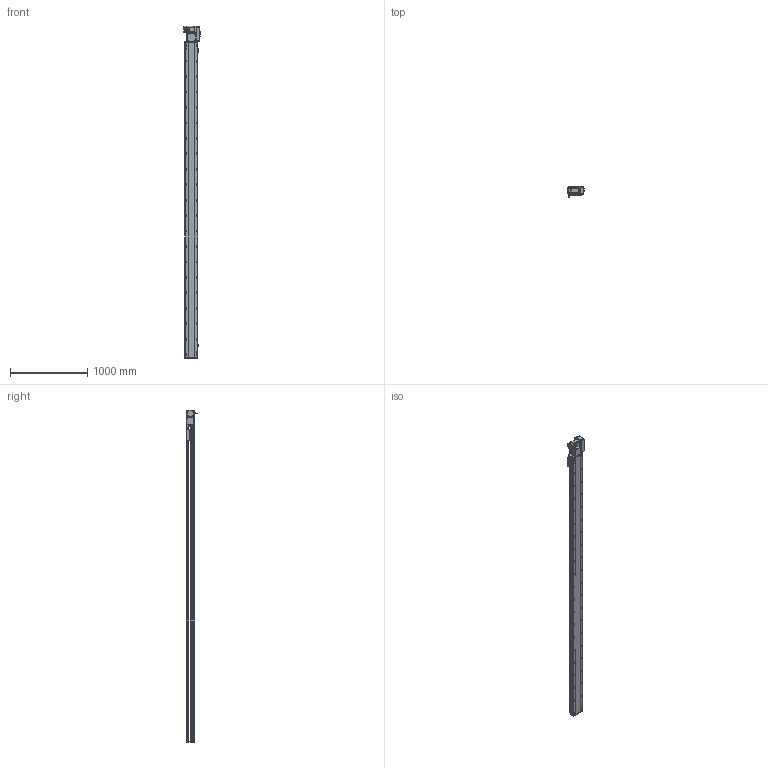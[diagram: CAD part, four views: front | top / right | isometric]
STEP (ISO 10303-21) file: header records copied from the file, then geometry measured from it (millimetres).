
FILE_DESCRIPTION (( 'STEP AP214' ), '1' );
FILE_NAME ('RTB17S-XX-3800-R-M75-C4.STEP', '2025-12-12T01:55:40', ( '' ), ( '' ), 'SwSTEP 2.0', 'SolidWorks 2018', '' );
FILE_SCHEMA (( 'AUTOMOTIVE_DESIGN' ));
Length unit declared in the file: millimetre
Products named in the file (15): RTB17S-R-々湍釱蚾饜-750W^RTB17S-XX-XX-R-M75-C4; RTB17-R-011菁釱^RTB17S-XX-XX-R-M75-C4; 750W萇儂^RTB17S-XX-XX-R-M75-C4; RTB17S-L-001-耜醱啣^RTB17S-XX-XX-R-M75-C4; EE672^RTB17S-XX-XX-R-M75-C4; RTB17S-L-007奻裔^RTB17S-XX-XX-R-M75-C4; RTB17S-L-004-賑釱^RTB17S-賑釱_RTB17S-XX-XX-R-M75-C4; RTB17S-L-014-T20-P75--々湍釱^RTB17S-R-々湍釱蚾饜-750W_RTB17S-XX-XX-R-M75-C4; RTB22S-GY-017P^RTB17S-R-々湍釱蚾饜-750W_RTB17S-XX-XX-R-M75-C4; RTB17S-賑釱^RTB17S-XX-XX-R-M75-C4; RTB22S-GY-018P^RTB17S-R-々湍釱蚾饜-750W_RTB17S-XX-XX-R-M75-C4; RTB22S-GY-008-M75--萇儂啣^RTB17S-R-々湍釱蚾饜-750W_RTB17S-XX-XX-R-M75-C4; RTH13-BL-012覜茼え俋离^RTB17S-賑釱_RTB17S-XX-XX-R-M75-C4; RTB17S-XX-3800-R-M75-C4; RTB22S-GY-005P^RTB17S-R-々湍釱蚾饜-750W_RTB17S-XX-XX-R-M75-C4
Assembly tree (17 placements, depth 3):
  RTB17S-XX-3800-R-M75-C4
    RTB17-R-011菁釱^RTB17S-XX-XX-R-M75-C4
    EE672^RTB17S-XX-XX-R-M75-C4  x3
    RTB17S-L-001-耜醱啣^RTB17S-XX-XX-R-M75-C4
    RTB17S-賑釱^RTB17S-XX-XX-R-M75-C4
      RTB17S-L-004-賑釱^RTB17S-賑釱_RTB17S-XX-XX-R-M75-C4
      RTH13-BL-012覜茼え俋离^RTB17S-賑釱_RTB17S-XX-XX-R-M75-C4
    RTB17S-L-007奻裔^RTB17S-XX-XX-R-M75-C4
    750W萇儂^RTB17S-XX-XX-R-M75-C4
    RTB17S-R-々湍釱蚾饜-750W^RTB17S-XX-XX-R-M75-C4
      RTB17S-L-014-T20-P75--々湍釱^RTB17S-R-々湍釱蚾饜-750W_RTB17S-XX-XX-R-M75-C4
      RTB22S-GY-005P^RTB17S-R-々湍釱蚾饜-750W_RTB17S-XX-XX-R-M75-C4
      RTB22S-GY-017P^RTB17S-R-々湍釱蚾饜-750W_RTB17S-XX-XX-R-M75-C4  x2
      RTB22S-GY-008-M75--萇儂啣^RTB17S-R-々湍釱蚾饜-750W_RTB17S-XX-XX-R-M75-C4
      RTB22S-GY-018P^RTB17S-R-々湍釱蚾饜-750W_RTB17S-XX-XX-R-M75-C4
Bounding box: 207.4 x 152.7 x 4299 mm (x, y, z)
Volume: 29707005 mm3; surface area: 5509341.5 mm2
Topology: 17 solids, 17 shells, 2313 faces, 6538 edges, 4238 vertices
Faces by surface type: plane 998, cylinder 899, bspline 294, cone 110, sphere 8, torus 4
Entity records: 68854 total; most frequent: CARTESIAN_POINT 20602, ORIENTED_EDGE 9920, DIRECTION 9122, EDGE_CURVE 4960, AXIS2_PLACEMENT_3D 3258, VERTEX_POINT 3242, VECTOR 2606, LINE 2606
